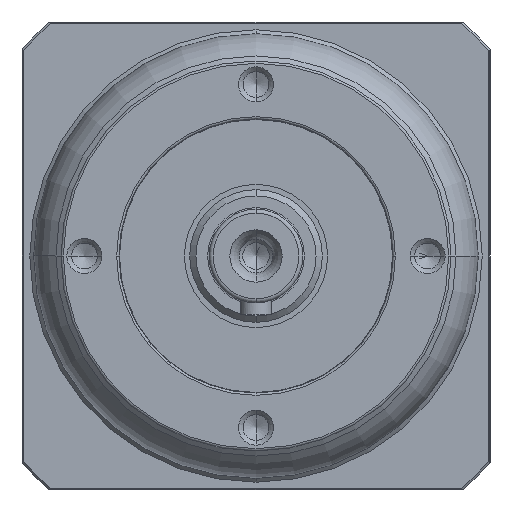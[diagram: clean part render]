
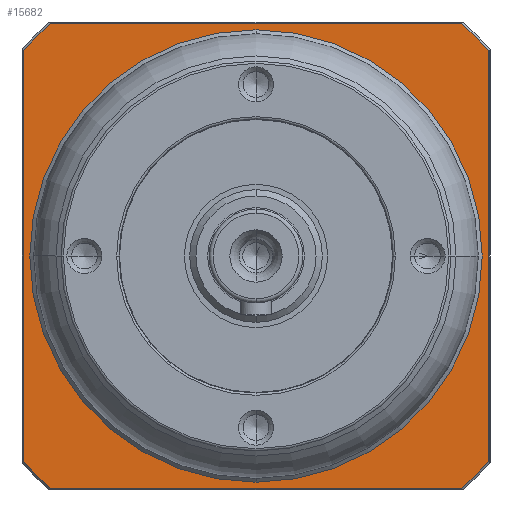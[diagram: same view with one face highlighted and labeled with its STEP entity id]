
A CAD part, left-side view. The second image highlights one B-rep face of the part: STEP entity #15682.
In plain terms, the highlighted planar face has unit normal (-1, 0, 0) as drawn and (0, 0, -1) by its records, which use the part's own axes.
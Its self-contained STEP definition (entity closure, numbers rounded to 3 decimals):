
#14556=CARTESIAN_POINT('',(0.,0.,
2.));
#14557=DIRECTION('',(0.,0.,-1.));
#14558=DIRECTION('',(0.,-1.,0.));
#14559=AXIS2_PLACEMENT_3D('',#14556,#14557,#14558);
#14561=CARTESIAN_POINT('',(0.,0.,
2.));
#14562=DIRECTION('',(0.,0.,-1.));
#14563=DIRECTION('',(0.,1.,0.));
#14564=AXIS2_PLACEMENT_3D('',#14561,#14562,#14563);
#14566=CARTESIAN_POINT('',(0.,0.,2.));
#14567=DIRECTION('',(0.,0.,1.));
#14568=DIRECTION('',(-0.749,-0.663,0.));
#14569=AXIS2_PLACEMENT_3D('',#14566,#14567,#14568);
#14571=DIRECTION('',(1.,0.,0.));
#14572=VECTOR('',#14571,52.764);
#14573=CARTESIAN_POINT('',(-26.382,-29.8,
2.));
#14574=LINE('',#14573,#14572);
#14575=CARTESIAN_POINT('',(0.,0.,2.));
#14576=DIRECTION('',(0.,0.,1.));
#14577=DIRECTION('',(0.663,-0.749,0.));
#14578=AXIS2_PLACEMENT_3D('',#14575,#14576,#14577);
#14580=DIRECTION('',(0.,1.,0.));
#14581=VECTOR('',#14580,52.764);
#14582=CARTESIAN_POINT('',(29.8,-26.382,
2.));
#14583=LINE('',#14582,#14581);
#14584=CARTESIAN_POINT('',(0.,0.,2.));
#14585=DIRECTION('',(0.,0.,1.));
#14586=DIRECTION('',(0.749,0.663,0.));
#14587=AXIS2_PLACEMENT_3D('',#14584,#14585,#14586);
#14589=DIRECTION('',(-1.,0.,0.));
#14590=VECTOR('',#14589,52.764);
#14591=CARTESIAN_POINT('',(26.382,29.8,2.));
#14592=LINE('',#14591,#14590);
#14593=CARTESIAN_POINT('',(0.,0.,2.));
#14594=DIRECTION('',(0.,0.,1.));
#14595=DIRECTION('',(-0.663,0.749,0.));
#14596=AXIS2_PLACEMENT_3D('',#14593,#14594,#14595);
#14598=DIRECTION('',(0.,-1.,0.));
#14599=VECTOR('',#14598,52.764);
#14600=CARTESIAN_POINT('',(-29.8,26.382,
2.));
#14601=LINE('',#14600,#14599);
#15337=CARTESIAN_POINT('',(0.,-29.,2.));
#15338=CARTESIAN_POINT('',(0.,29.,2.));
#15339=VERTEX_POINT('',#15337);
#15340=VERTEX_POINT('',#15338);
#15409=CARTESIAN_POINT('',(-29.8,-26.382,2.));
#15410=CARTESIAN_POINT('',(-26.382,-29.8,2.));
#15411=VERTEX_POINT('',#15409);
#15412=VERTEX_POINT('',#15410);
#15417=CARTESIAN_POINT('',(26.382,-29.8,
2.));
#15418=VERTEX_POINT('',#15417);
#15421=CARTESIAN_POINT('',(29.8,-26.382,2.));
#15422=VERTEX_POINT('',#15421);
#15425=CARTESIAN_POINT('',(29.8,26.382,2.));
#15426=VERTEX_POINT('',#15425);
#15429=CARTESIAN_POINT('',(26.382,29.8,2.));
#15430=VERTEX_POINT('',#15429);
#15433=CARTESIAN_POINT('',(-26.382,29.8,
2.));
#15434=VERTEX_POINT('',#15433);
#15439=CARTESIAN_POINT('',(-29.8,26.382,2.));
#15440=VERTEX_POINT('',#15439);
#15654=CARTESIAN_POINT('',(0.,0.,2.));
#15655=DIRECTION('',(0.,0.,1.));
#15656=DIRECTION('',(0.,1.,0.));
#15657=AXIS2_PLACEMENT_3D('',#15654,#15655,#15656);
#15658=PLANE('',#15657);
#15660=ORIENTED_EDGE('',*,*,#15659,.T.);
#15662=ORIENTED_EDGE('',*,*,#15661,.T.);
#15664=ORIENTED_EDGE('',*,*,#15663,.T.);
#15666=ORIENTED_EDGE('',*,*,#15665,.T.);
#15668=ORIENTED_EDGE('',*,*,#15667,.T.);
#15670=ORIENTED_EDGE('',*,*,#15669,.T.);
#15672=ORIENTED_EDGE('',*,*,#15671,.T.);
#15674=ORIENTED_EDGE('',*,*,#15673,.T.);
#15675=EDGE_LOOP('',(#15660,#15662,#15664,#15666,#15668,#15670,#15672,#15674));
#15676=FACE_OUTER_BOUND('',#15675,.F.);
#15678=ORIENTED_EDGE('',*,*,#15677,.T.);
#15679=ORIENTED_EDGE('',*,*,#15644,.T.);
#15680=EDGE_LOOP('',(#15678,#15679));
#15681=FACE_BOUND('',#15680,.F.);
#15682=ADVANCED_FACE('',(#15676,#15681),#15658,.F.);
#14560=CIRCLE('',#14559,29.);
#14565=CIRCLE('',#14564,29.);
#14570=CIRCLE('',#14569,39.8);
#14579=CIRCLE('',#14578,39.8);
#14588=CIRCLE('',#14587,39.8);
#14597=CIRCLE('',#14596,39.8);
#15644=EDGE_CURVE('',#15340,#15339,#14565,.T.);
#15659=EDGE_CURVE('',#15411,#15412,#14570,.T.);
#15661=EDGE_CURVE('',#15412,#15418,#14574,.T.);
#15663=EDGE_CURVE('',#15418,#15422,#14579,.T.);
#15665=EDGE_CURVE('',#15422,#15426,#14583,.T.);
#15667=EDGE_CURVE('',#15426,#15430,#14588,.T.);
#15669=EDGE_CURVE('',#15430,#15434,#14592,.T.);
#15671=EDGE_CURVE('',#15434,#15440,#14597,.T.);
#15673=EDGE_CURVE('',#15440,#15411,#14601,.T.);
#15677=EDGE_CURVE('',#15339,#15340,#14560,.T.);
